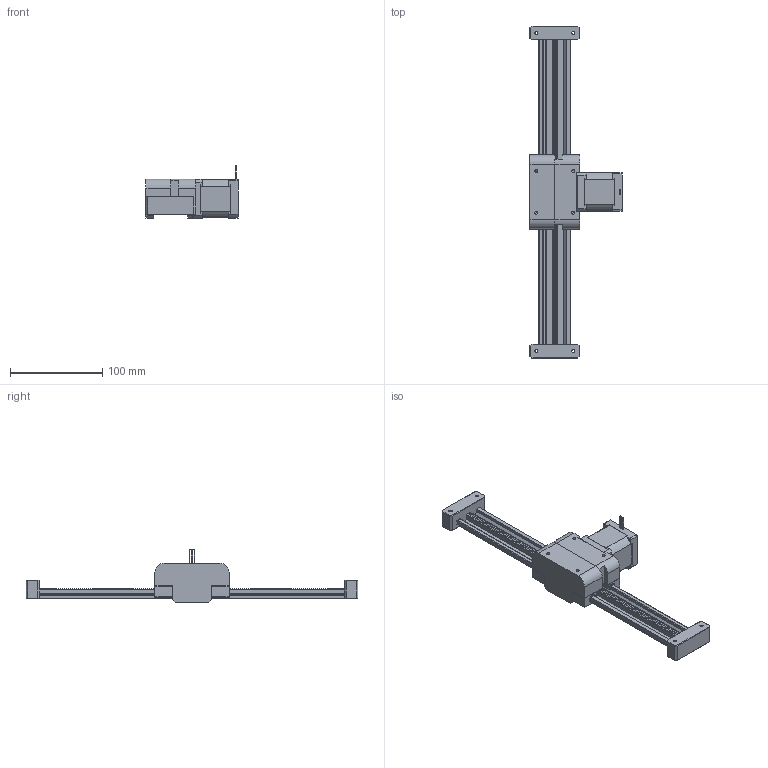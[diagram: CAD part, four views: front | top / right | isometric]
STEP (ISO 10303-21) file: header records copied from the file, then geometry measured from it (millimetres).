
FILE_DESCRIPTION (( 'STEP AP203' ), '1' );
FILE_NAME ('D00684285.STEP', '2024-07-13T16:26:25', ( '' ), ( '' ), 'SwSTEP 2.0', 'SolidWorks 2020', '' );
FILE_SCHEMA (( 'CONFIG_CONTROL_DESIGN' ));
Length unit declared in the file: millimetre
Products named in the file (12): 2024_06_14_20_41_47_0635.stp; 2024_06_14_20_41_47_0744.stp; 2024_06_14_20_41_47_0666.stp; GRW_0630_B_80_250_17_L_S_000_1.stp; 2024_06_14_20_41_47_0697.stp; 2024_06_14_20_41_47_0682.stp; 2024_06_14_20_41_47_0619.stp; 2024_06_14_20_41_47_0713.stp; D00684285; 2024_06_14_20_41_47_0651.stp; 2024_06_14_20_41_47_0760.stp; 2024_06_14_20_41_47_0729.stp
Assembly tree (11 placements, depth 3):
  D00684285
    GRW_0630_B_80_250_17_L_S_000_1.stp
      2024_06_14_20_41_47_0760.stp
      2024_06_14_20_41_47_0744.stp
      2024_06_14_20_41_47_0729.stp
      2024_06_14_20_41_47_0713.stp
      2024_06_14_20_41_47_0697.stp
      2024_06_14_20_41_47_0682.stp
      2024_06_14_20_41_47_0666.stp
      2024_06_14_20_41_47_0651.stp
      2024_06_14_20_41_47_0635.stp
      2024_06_14_20_41_47_0619.stp
Bounding box: 100 x 360.5 x 57.25 mm (x, y, z)
Volume: 266325.5 mm3; surface area: 98837.1 mm2
Topology: 10 solids, 10 shells, 1847 faces, 5159 edges, 3400 vertices
Faces by surface type: plane 1305, cylinder 486, cone 56
Entity records: 60991 total; most frequent: CARTESIAN_POINT 11249, ORIENTED_EDGE 10286, DIRECTION 9891, EDGE_CURVE 5143, VECTOR 4039, LINE 4039, VERTEX_POINT 3400, AXIS2_PLACEMENT_3D 2926
